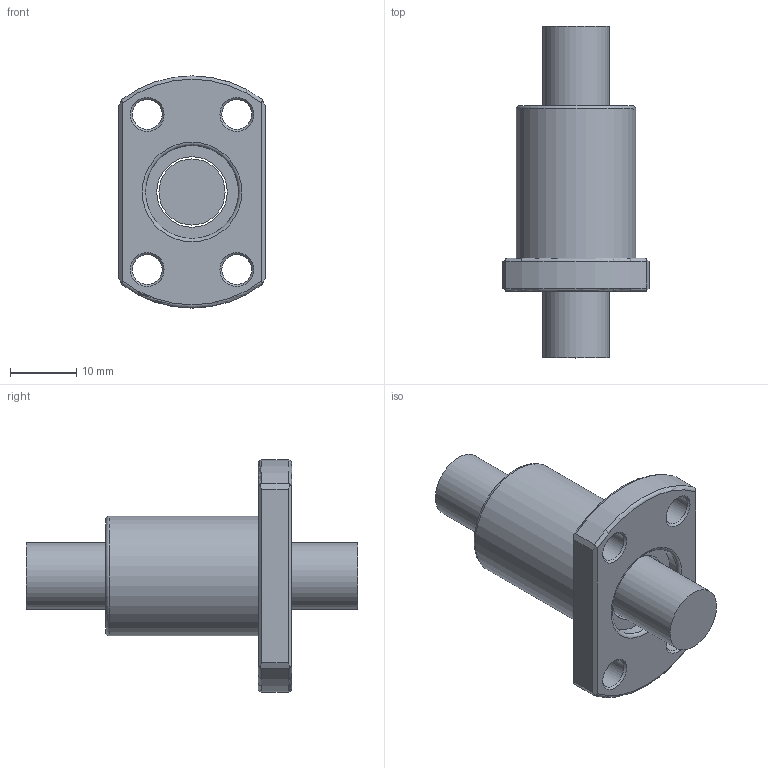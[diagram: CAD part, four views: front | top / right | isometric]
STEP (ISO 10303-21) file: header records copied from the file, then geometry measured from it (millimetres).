
FILE_DESCRIPTION(/* description */ (''),/* implementation_level */ '2;1');
FILE_NAME(/* name */ '1002.prt.step',/* time_stamp */ '2008-12-05T09:38:17+08:00',/* author */ (''),/* organization */ (''),/* preprocessor_version */ 'ST-DEVELOPER v11',/* originating_system */ 'SIEMENS UGS NX 6.0',/* authorisation */ '');
FILE_SCHEMA (('AUTOMOTIVE_DESIGN { 1 0 10303 214 1 1 1 1 }'));
Length unit declared in the file: millimetre
Products named in the file (1): 1002
Bounding box: 22 x 50 x 35 mm (x, y, z)
Volume: 10234.6 mm3; surface area: 5810.3 mm2
Topology: 2 solids, 2 shells, 43 faces, 100 edges, 64 vertices
Faces by surface type: plane 17, cylinder 11, cone 8, torus 7
Full cylindrical faces by diameter (mm): 4.5 x4, 9.95 x1, 10.6 x1, 14 x2, 18 x1
Entity records: 1334 total; most frequent: CARTESIAN_POINT 398, DIRECTION 186, ORIENTED_EDGE 154, AXIS2_PLACEMENT_3D 81, EDGE_CURVE 77, EDGE_LOOP 76, VERTEX_POINT 61, FACE_BOUND 58
